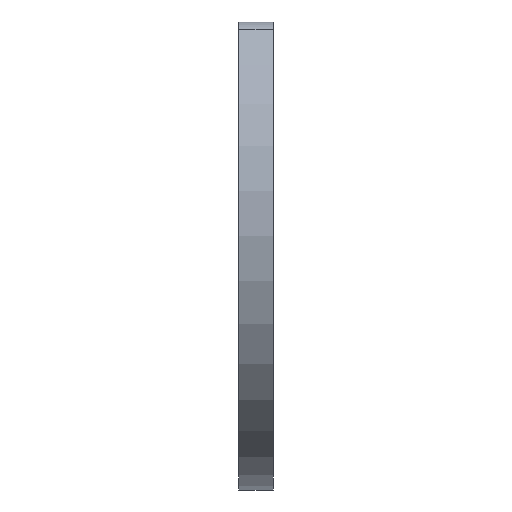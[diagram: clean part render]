
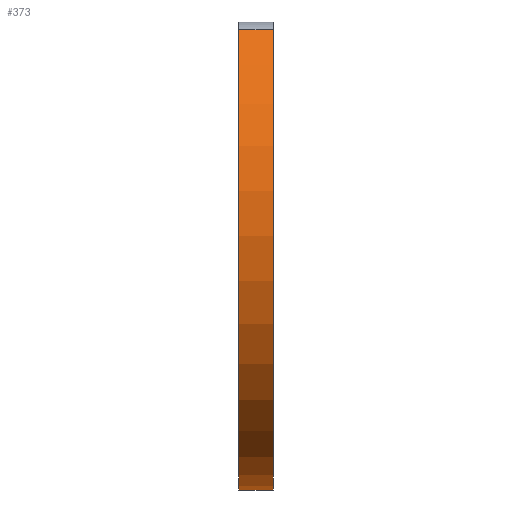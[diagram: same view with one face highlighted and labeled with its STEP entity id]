
A CAD part, left-side view. The second image highlights one B-rep face of the part: STEP entity #373.
In plain terms, the highlighted cylindrical face has radius 7.15 mm (diameter 14.3 mm), a partial arc.
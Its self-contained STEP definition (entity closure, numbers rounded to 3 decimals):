
#7 = DIRECTION ( 'NONE',  ( 0., 1., 0. ) ) ;
#22 = ORIENTED_EDGE ( 'NONE', *, *, #76, .F. ) ;
#25 = EDGE_CURVE ( 'NONE', #261, #313, #627, .T. ) ;
#44 = CARTESIAN_POINT ( 'NONE',  ( 0., 0.45, -7.15 ) ) ;
#76 = EDGE_CURVE ( 'NONE', #248, #368, #154, .T. ) ;
#106 = DIRECTION ( 'NONE',  ( 0., -1., 0. ) ) ;
#115 = CARTESIAN_POINT ( 'NONE',  ( -5.106, 0.45, 5.005 ) ) ;
#154 = CIRCLE ( 'NONE', #728, 7.15 ) ;
#248 = VERTEX_POINT ( 'NONE', #44 ) ;
#261 = VERTEX_POINT ( 'NONE', #609 ) ;
#264 = CARTESIAN_POINT ( 'NONE',  ( -5.106, -0.45, 5.005 ) ) ;
#276 = AXIS2_PLACEMENT_3D ( 'NONE', #556, #460, #336 ) ;
#298 = DIRECTION ( 'NONE',  ( 0., 0., 1. ) ) ;
#309 = DIRECTION ( 'NONE',  ( 0., 1., 0. ) ) ;
#313 = VERTEX_POINT ( 'NONE', #264 ) ;
#315 = LINE ( 'NONE', #668, #857 ) ;
#336 = DIRECTION ( 'NONE',  ( 0., 0., -1. ) ) ;
#368 = VERTEX_POINT ( 'NONE', #772 ) ;
#373 = ADVANCED_FACE ( 'NONE', ( #809 ), #459, .T. ) ;
#388 = ORIENTED_EDGE ( 'NONE', *, *, #916, .T. ) ;
#459 = CYLINDRICAL_SURFACE ( 'NONE', #276, 7.15 ) ;
#460 = DIRECTION ( 'NONE',  ( 0., -1., 0. ) ) ;
#466 = EDGE_CURVE ( 'NONE', #248, #261, #315, .T. ) ;
#500 = CARTESIAN_POINT ( 'NONE',  ( 0., -0.45, 0. ) ) ;
#507 = VECTOR ( 'NONE', #840, 1000. ) ;
#556 = CARTESIAN_POINT ( 'NONE',  ( 0., 0.45, 0. ) ) ;
#572 = EDGE_LOOP ( 'NONE', ( #22, #703, #824, #388 ) ) ;
#609 = CARTESIAN_POINT ( 'NONE',  ( 0., -0.45, -7.15 ) ) ;
#627 = CIRCLE ( 'NONE', #874, 7.15 ) ;
#646 = CARTESIAN_POINT ( 'NONE',  ( 0., 0.45, 0. ) ) ;
#668 = CARTESIAN_POINT ( 'NONE',  ( 0., 0.45, -7.15 ) ) ;
#703 = ORIENTED_EDGE ( 'NONE', *, *, #466, .T. ) ;
#728 = AXIS2_PLACEMENT_3D ( 'NONE', #646, #7, #867 ) ;
#729 = LINE ( 'NONE', #115, #507 ) ;
#772 = CARTESIAN_POINT ( 'NONE',  ( -5.106, 0.45, 5.005 ) ) ;
#809 = FACE_OUTER_BOUND ( 'NONE', #572, .T. ) ;
#824 = ORIENTED_EDGE ( 'NONE', *, *, #25, .T. ) ;
#840 = DIRECTION ( 'NONE',  ( 0., 1., 0. ) ) ;
#857 = VECTOR ( 'NONE', #106, 1000. ) ;
#867 = DIRECTION ( 'NONE',  ( 0., 0., 1. ) ) ;
#874 = AXIS2_PLACEMENT_3D ( 'NONE', #500, #309, #298 ) ;
#916 = EDGE_CURVE ( 'NONE', #313, #368, #729, .T. ) ;
